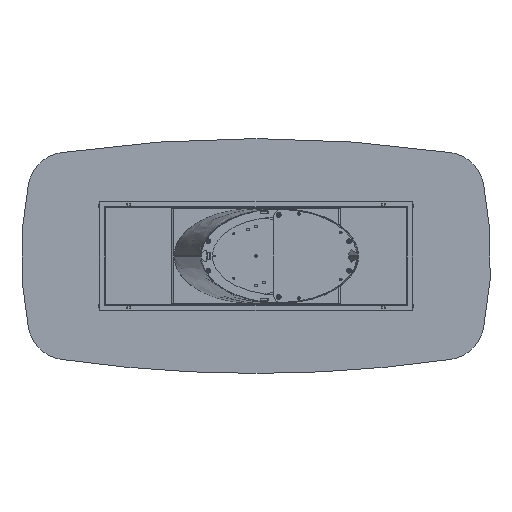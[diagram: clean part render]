
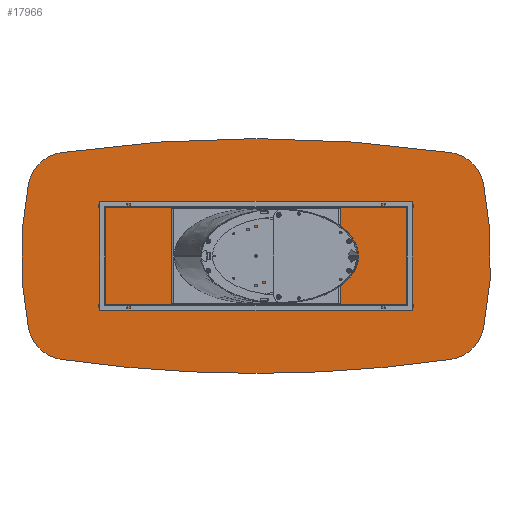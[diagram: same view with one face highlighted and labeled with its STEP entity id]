
A CAD part, front view. The second image highlights one B-rep face of the part: STEP entity #17966.
In plain terms, the highlighted planar face has unit normal (0, -1, 0).
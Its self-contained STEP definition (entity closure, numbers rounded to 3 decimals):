
#198 = DIRECTION ( 'NONE',  ( 0., 0., 1. ) ) ;
#226 = CIRCLE ( 'NONE', #11705, 200. ) ;
#431 = VERTEX_POINT ( 'NONE', #6740 ) ;
#891 = DIRECTION ( 'NONE',  ( 0., 0., 1. ) ) ;
#969 = DIRECTION ( 'NONE',  ( 0., 1., 0. ) ) ;
#1137 = CIRCLE ( 'NONE', #25839, 1845. ) ;
#2504 = DIRECTION ( 'NONE',  ( 0., -1., 0. ) ) ;
#3375 = CIRCLE ( 'NONE', #5207, 200. ) ;
#3394 = CARTESIAN_POINT ( 'NONE',  ( -966.467, 0., 330.452 ) ) ;
#3471 = DIRECTION ( 'NONE',  ( 0., 1., 0. ) ) ;
#3607 = CARTESIAN_POINT ( 'NONE',  ( -645., 0., 0. ) ) ;
#3786 = DIRECTION ( 'NONE',  ( 0., 1., 0. ) ) ;
#3823 = AXIS2_PLACEMENT_3D ( 'NONE', #26780, #969, #9730 ) ;
#4038 = AXIS2_PLACEMENT_3D ( 'NONE', #3394, #4981, #7705 ) ;
#4067 = DIRECTION ( 'NONE',  ( 0., 0., 1. ) ) ;
#4134 = DIRECTION ( 'NONE',  ( 0., 0., 1. ) ) ;
#4948 = EDGE_CURVE ( 'NONE', #16995, #12370, #12068, .T. ) ;
#4962 = CIRCLE ( 'NONE', #4038, 200. ) ;
#4981 = DIRECTION ( 'NONE',  ( 0., -1., 0. ) ) ;
#5207 = AXIS2_PLACEMENT_3D ( 'NONE', #6246, #2504, #198 ) ;
#5513 = CARTESIAN_POINT ( 'NONE',  ( -995.103, 0., 528.391 ) ) ;
#5671 = FACE_OUTER_BOUND ( 'NONE', #8002, .T. ) ;
#5827 = AXIS2_PLACEMENT_3D ( 'NONE', #10125, #5961, #14710 ) ;
#5961 = DIRECTION ( 'NONE',  ( 0., 1., 0. ) ) ;
#6246 = CARTESIAN_POINT ( 'NONE',  ( 966.467, 0., -330.452 ) ) ;
#6294 = ORIENTED_EDGE ( 'NONE', *, *, #10358, .F. ) ;
#6630 = CIRCLE ( 'NONE', #11676, 6950. ) ;
#6740 = CARTESIAN_POINT ( 'NONE',  ( 1162.39, 0., 370.629 ) ) ;
#7264 = EDGE_CURVE ( 'NONE', #21631, #27610, #6630, .T. ) ;
#7705 = DIRECTION ( 'NONE',  ( 0., 0., 1. ) ) ;
#7832 = AXIS2_PLACEMENT_3D ( 'NONE', #10110, #27579, #7967 ) ;
#7911 = EDGE_CURVE ( 'NONE', #21631, #17259, #3375, .T. ) ;
#7967 = DIRECTION ( 'NONE',  ( 0., 0., 1. ) ) ;
#8002 = EDGE_LOOP ( 'NONE', ( #18799, #14844, #26414, #24068, #13605, #17376, #18910, #6294, #10240 ) ) ;
#8121 = CIRCLE ( 'NONE', #5827, 6950. ) ;
#8889 = CARTESIAN_POINT ( 'NONE',  ( 995.103, 0., 528.391 ) ) ;
#9209 = EDGE_CURVE ( 'NONE', #16995, #18849, #226, .T. ) ;
#9730 = DIRECTION ( 'NONE',  ( 0., 0., 1. ) ) ;
#10106 = CARTESIAN_POINT ( 'NONE',  ( -322.5, 0., 3175. ) ) ;
#10110 = CARTESIAN_POINT ( 'NONE',  ( 0., 0., -6350. ) ) ;
#10125 = CARTESIAN_POINT ( 'NONE',  ( 0., 0., 6350. ) ) ;
#10240 = ORIENTED_EDGE ( 'NONE', *, *, #19656, .T. ) ;
#10358 = EDGE_CURVE ( 'NONE', #431, #17259, #1137, .T. ) ;
#11312 = CARTESIAN_POINT ( 'NONE',  ( -966.467, 0., -330.452 ) ) ;
#11676 = AXIS2_PLACEMENT_3D ( 'NONE', #20827, #11963, #18819 ) ;
#11705 = AXIS2_PLACEMENT_3D ( 'NONE', #11312, #23757, #4134 ) ;
#11880 = CARTESIAN_POINT ( 'NONE',  ( 1162.39, 0., -370.629 ) ) ;
#11958 = VERTEX_POINT ( 'NONE', #8889 ) ;
#11963 = DIRECTION ( 'NONE',  ( 0., 1., 0. ) ) ;
#12068 = CIRCLE ( 'NONE', #3823, 1845. ) ;
#12370 = VERTEX_POINT ( 'NONE', #13839 ) ;
#13287 = AXIS2_PLACEMENT_3D ( 'NONE', #10106, #3786, #4067 ) ;
#13605 = ORIENTED_EDGE ( 'NONE', *, *, #24166, .F. ) ;
#13839 = CARTESIAN_POINT ( 'NONE',  ( -1162.39, 0., 370.629 ) ) ;
#14697 = CARTESIAN_POINT ( 'NONE',  ( 966.467, 0., 330.452 ) ) ;
#14710 = DIRECTION ( 'NONE',  ( 0., 0., 1. ) ) ;
#14844 = ORIENTED_EDGE ( 'NONE', *, *, #16438, .T. ) ;
#14988 = DIRECTION ( 'NONE',  ( 0., 0., 1. ) ) ;
#15379 = CARTESIAN_POINT ( 'NONE',  ( 0., 0., -600. ) ) ;
#16438 = EDGE_CURVE ( 'NONE', #26193, #12370, #4962, .T. ) ;
#16995 = VERTEX_POINT ( 'NONE', #26340 ) ;
#17259 = VERTEX_POINT ( 'NONE', #11880 ) ;
#17376 = ORIENTED_EDGE ( 'NONE', *, *, #7264, .F. ) ;
#17966 = ADVANCED_FACE ( 'NONE', ( #5671 ), #21399, .F. ) ;
#18799 = ORIENTED_EDGE ( 'NONE', *, *, #19742, .F. ) ;
#18819 = DIRECTION ( 'NONE',  ( 0., 0., 1. ) ) ;
#18849 = VERTEX_POINT ( 'NONE', #24758 ) ;
#18910 = ORIENTED_EDGE ( 'NONE', *, *, #7911, .T. ) ;
#19656 = EDGE_CURVE ( 'NONE', #431, #11958, #22935, .T. ) ;
#19742 = EDGE_CURVE ( 'NONE', #26193, #11958, #21089, .T. ) ;
#20827 = CARTESIAN_POINT ( 'NONE',  ( 0., 0., 6350. ) ) ;
#21089 = CIRCLE ( 'NONE', #7832, 6950. ) ;
#21399 = PLANE ( 'NONE',  #13287 ) ;
#21631 = VERTEX_POINT ( 'NONE', #24312 ) ;
#22935 = CIRCLE ( 'NONE', #26117, 200. ) ;
#23757 = DIRECTION ( 'NONE',  ( 0., -1., 0. ) ) ;
#24068 = ORIENTED_EDGE ( 'NONE', *, *, #9209, .T. ) ;
#24166 = EDGE_CURVE ( 'NONE', #27610, #18849, #8121, .T. ) ;
#24312 = CARTESIAN_POINT ( 'NONE',  ( 995.103, 0., -528.391 ) ) ;
#24758 = CARTESIAN_POINT ( 'NONE',  ( -995.103, 0., -528.391 ) ) ;
#25839 = AXIS2_PLACEMENT_3D ( 'NONE', #3607, #3471, #891 ) ;
#25984 = DIRECTION ( 'NONE',  ( 0., -1., 0. ) ) ;
#26117 = AXIS2_PLACEMENT_3D ( 'NONE', #14697, #25984, #14988 ) ;
#26193 = VERTEX_POINT ( 'NONE', #5513 ) ;
#26340 = CARTESIAN_POINT ( 'NONE',  ( -1162.39, 0., -370.629 ) ) ;
#26414 = ORIENTED_EDGE ( 'NONE', *, *, #4948, .F. ) ;
#26780 = CARTESIAN_POINT ( 'NONE',  ( 645., 0., 0. ) ) ;
#27579 = DIRECTION ( 'NONE',  ( 0., 1., 0. ) ) ;
#27610 = VERTEX_POINT ( 'NONE', #15379 ) ;
